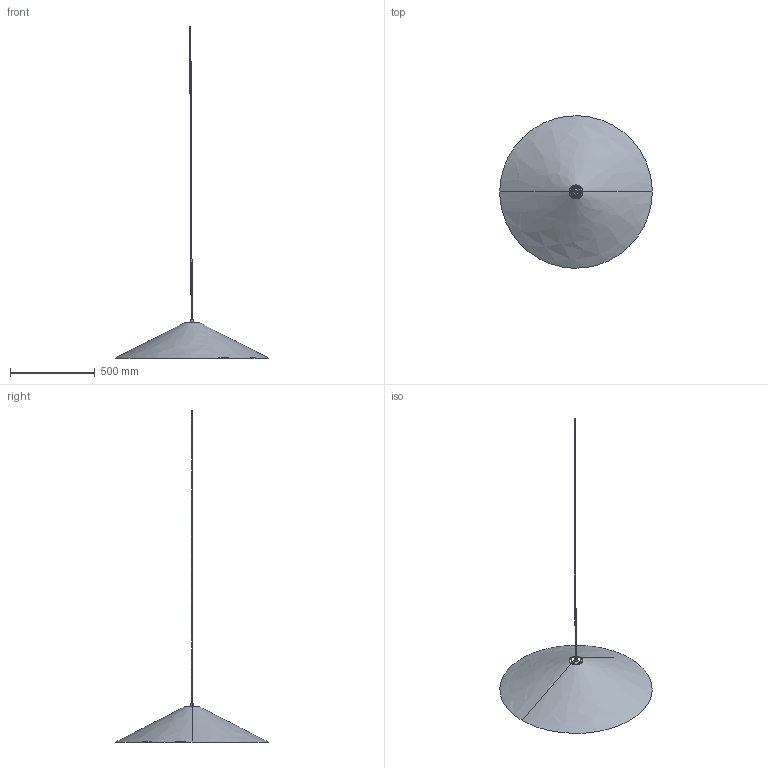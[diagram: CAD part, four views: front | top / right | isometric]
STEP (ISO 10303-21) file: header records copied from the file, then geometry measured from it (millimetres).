
FILE_DESCRIPTION(/* description */ (''),/* implementation_level */ '2;1');
FILE_NAME(/* name */ 'Dou Pendant Ø90_3D',/* time_stamp */ '2021-05-03T15:57:07+02:00',/* author */ (''),/* organization */ (''),/* preprocessor_version */ 'ST-DEVELOPER v16.5',/* originating_system */ '',/* authorisation */ '');
FILE_SCHEMA (('CONFIG_CONTROL_DESIGN'));
Length unit declared in the file: millimetre
Products named in the file (1): Document
Bounding box: 899.87 x 899.54 x 1959.22 mm (x, y, z)
Volume: 1144837.1 mm3; surface area: 826088.1 mm2
Topology: 11 solids, 12 shells, 53 faces, 109 edges, 71 vertices
Faces by surface type: bspline 22, plane 16, cylinder 15
Full cylindrical faces by diameter (mm): 40 x1
Entity records: 1858 total; most frequent: CARTESIAN_POINT 1129, ORIENTED_EDGE 182, EDGE_CURVE 93, VERTEX_POINT 58, EDGE_LOOP 55, ADVANCED_FACE 53, FACE_OUTER_BOUND 53, DIRECTION 38
